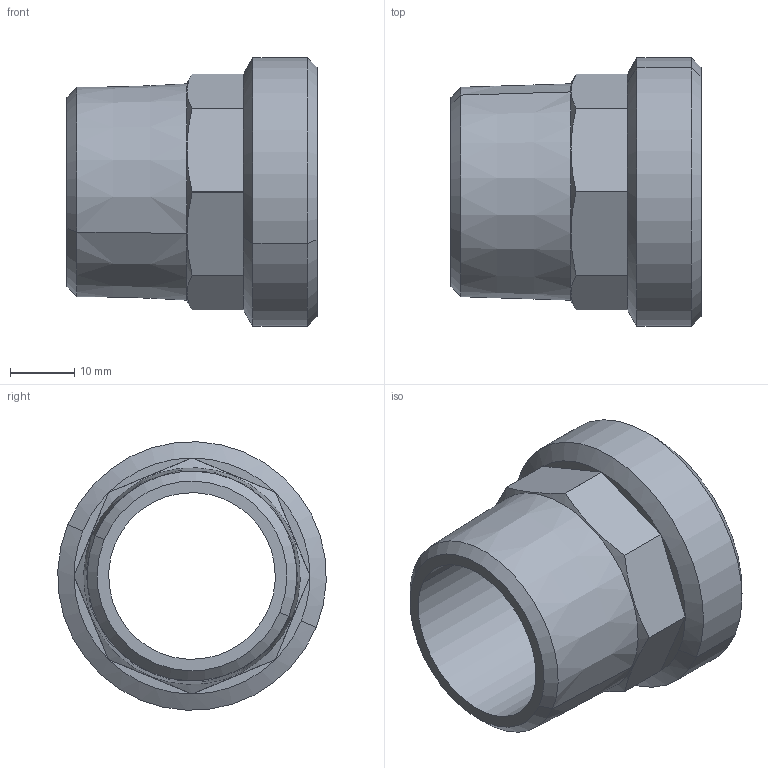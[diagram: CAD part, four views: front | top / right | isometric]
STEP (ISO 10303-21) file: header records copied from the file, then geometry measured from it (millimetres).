
FILE_DESCRIPTION((''),'2;1');
FILE_NAME('14386_1-114(2).stp','2009-08-26T08:50:40',(''),(''),'Mechanical Desktop 2009','Mechanical Desktop 2009',', , ');
FILE_SCHEMA(('CONFIG_CONTROL_DESIGN'));
Length unit declared in the file: millimetre
Products named in the file (2): 4386-1-114(2); CZﾊ姑1
Assembly tree (1 placements, depth 2):
  4386-1-114(2)
    CZﾊ姑1
Bounding box: 39 x 41.87 x 41.87 mm (x, y, z)
Volume: 17447.9 mm3; surface area: 8680.7 mm2
Topology: 1 solids, 1 shells, 42 faces, 94 edges, 54 vertices
Faces by surface type: plane 18, cone 12, cylinder 12
Entity records: 1257 total; most frequent: DIRECTION 216, CARTESIAN_POINT 212, ORIENTED_EDGE 188, EDGE_CURVE 94, AXIS2_PLACEMENT_3D 88, VERTEX_POINT 54, CIRCLE 44, EDGE_LOOP 44
